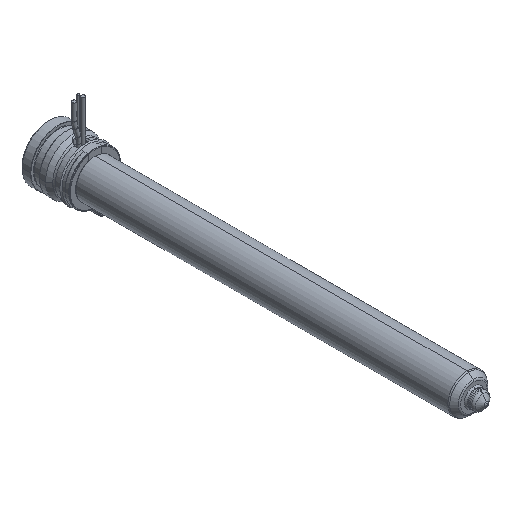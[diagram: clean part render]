
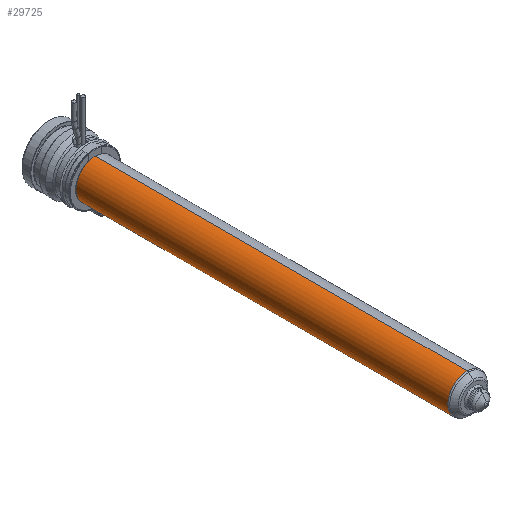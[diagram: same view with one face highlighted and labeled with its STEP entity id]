
A CAD part, isometric view. The second image highlights one B-rep face of the part: STEP entity #29725.
In plain terms, the highlighted cylindrical face has radius 9 mm (diameter 18 mm), a partial arc.
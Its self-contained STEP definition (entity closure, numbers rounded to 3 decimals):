
#29180=CARTESIAN_POINT('',(0.,-195.836,0.));
#29181=DIRECTION('',(0.,-1.,0.));
#29182=DIRECTION('',(0.,0.,1.));
#29183=AXIS2_PLACEMENT_3D('',#29180,#29181,#29182);
#29188=CARTESIAN_POINT('',(0.,-22.,0.));
#29189=DIRECTION('',(0.,-1.,0.));
#29190=DIRECTION('',(0.,0.,1.));
#29191=AXIS2_PLACEMENT_3D('',#29188,#29189,#29190);
#29196=DIRECTION('',(0.,-1.,0.));
#29197=VECTOR('',#29196,173.836);
#29198=CARTESIAN_POINT('',(0.,-22.,9.));
#29199=LINE('',#29198,#29197);
#29211=DIRECTION('',(0.,-1.,0.));
#29212=VECTOR('',#29211,173.836);
#29213=CARTESIAN_POINT('',(0.,-22.,-9.));
#29214=LINE('',#29213,#29212);
#29406=CARTESIAN_POINT('',(0.,-22.,9.));
#29407=CARTESIAN_POINT('',(0.,-195.836,9.));
#29408=VERTEX_POINT('',#29406);
#29409=VERTEX_POINT('',#29407);
#29428=CARTESIAN_POINT('',(0.,-22.,-9.));
#29429=CARTESIAN_POINT('',(0.,-195.836,-9.));
#29430=VERTEX_POINT('',#29428);
#29431=VERTEX_POINT('',#29429);
#29711=CARTESIAN_POINT('',(0.,-8.625,0.));
#29712=DIRECTION('',(0.,-1.,0.));
#29713=DIRECTION('',(0.,0.,1.));
#29714=AXIS2_PLACEMENT_3D('',#29711,#29712,#29713);
#29715=CYLINDRICAL_SURFACE('',#29714,9.);
#29717=ORIENTED_EDGE('',*,*,#29716,.T.);
#29718=ORIENTED_EDGE('',*,*,#29706,.T.);
#29720=ORIENTED_EDGE('',*,*,#29719,.F.);
#29722=ORIENTED_EDGE('',*,*,#29721,.F.);
#29723=EDGE_LOOP('',(#29717,#29718,#29720,#29722));
#29724=FACE_OUTER_BOUND('',#29723,.F.);
#29725=ADVANCED_FACE('',(#29724),#29715,.T.);
#29184=CIRCLE('',#29183,9.);
#29192=CIRCLE('',#29191,9.);
#29706=EDGE_CURVE('',#29409,#29431,#29184,.T.);
#29716=EDGE_CURVE('',#29408,#29409,#29199,.T.);
#29719=EDGE_CURVE('',#29430,#29431,#29214,.T.);
#29721=EDGE_CURVE('',#29408,#29430,#29192,.T.);
